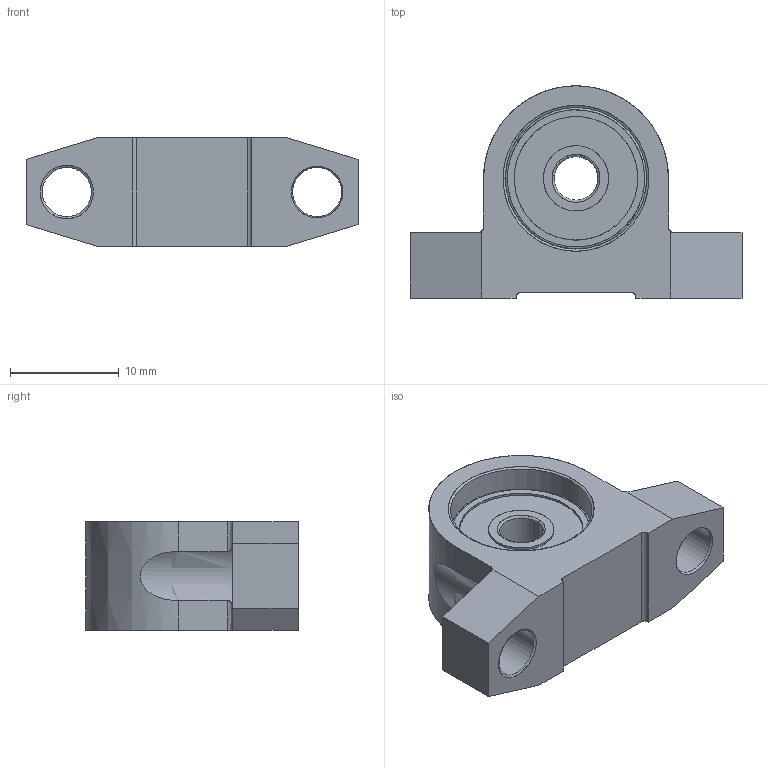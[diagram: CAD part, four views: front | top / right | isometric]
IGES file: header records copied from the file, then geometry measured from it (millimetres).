
Start section: SolidWorks IGES file using analytic representation for surfaces
Global section: file name: C:\Users\watanabe\Desktop\MSU-5\MSU5CS.IGS; native system: SolidWorks 2010; preprocessor: SolidWorks 2010; author: watanabe; date: 120613.103128; units: millimetre
Bounding box: 30.5 x 19.5 x 10 mm (x, y, z)
Surface area: 2356.8 mm2 (no closed solid volume)
Topology: 0 solids, 0 shells, 72 faces, 1072 edges, 1072 vertices
Faces by surface type: revolution 39, bspline 33
